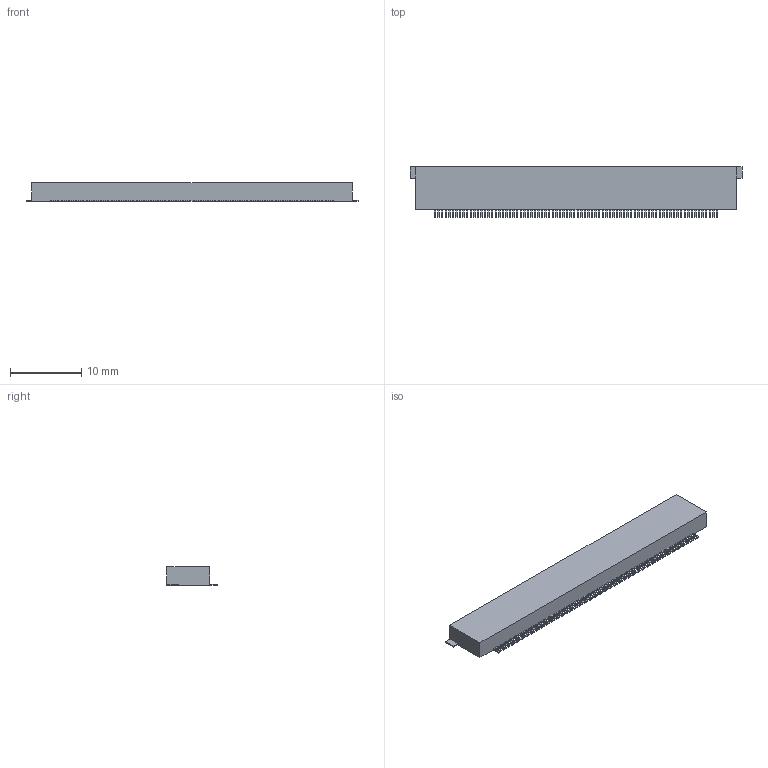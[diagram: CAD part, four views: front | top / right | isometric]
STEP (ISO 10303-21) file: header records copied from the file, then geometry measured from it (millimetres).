
FILE_DESCRIPTION(('FreeCAD Model'),'2;1');
FILE_NAME('Open CASCADE Shape Model','2026-10-14T23:10:09',('FreeCAD'),( 'FreeCAD'),'Open CASCADE STEP processor 7.9','FreeCAD','Unknown');
FILE_SCHEMA(('AUTOMOTIVE_DESIGN { 1 0 10303 214 1 1 1 1 }'));
Length unit declared in the file: millimetre
Products named in the file (1): Open CASCADE STEP translator 7.9 1
Bounding box: 46.55 x 7.05 x 2.55 mm (x, y, z)
Volume: 628.2 mm3; surface area: 1175.4 mm2
Topology: 83 solids, 83 shells, 503 faces, 1008 edges, 672 vertices
Faces by surface type: plane 503
Entity records: 12608 total; most frequent: CARTESIAN_POINT 2184, DIRECTION 2016, ORIENTED_EDGE 2016, EDGE_CURVE 1008, LINE 1008, VECTOR 1008, VERTEX_POINT 672, AXIS2_PLACEMENT_3D 504
